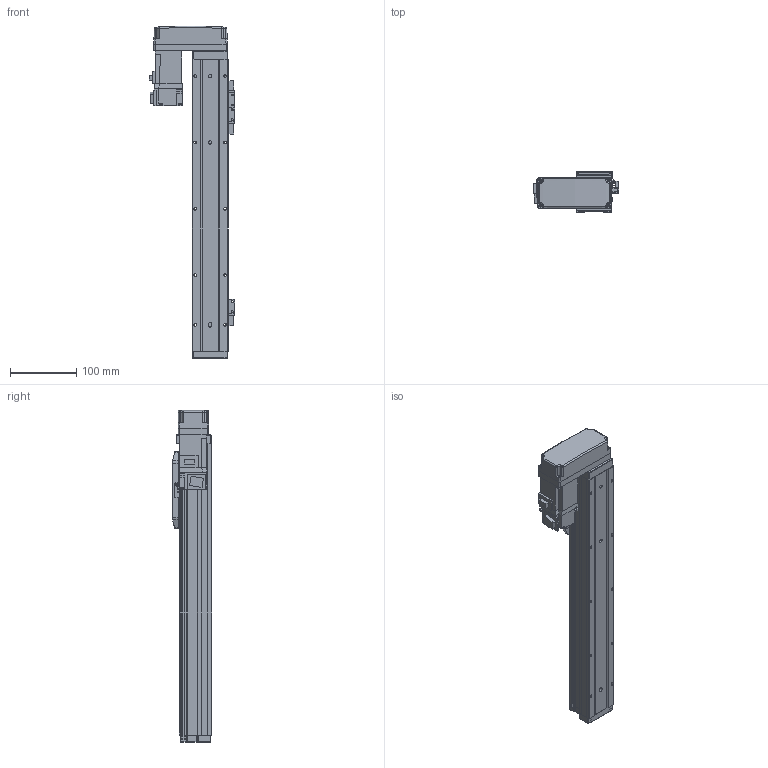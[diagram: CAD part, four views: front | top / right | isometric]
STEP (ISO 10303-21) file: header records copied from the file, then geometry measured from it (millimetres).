
FILE_DESCRIPTION (( 'STEP AP214' ), '1' );
FILE_NAME ('N_GRH5-300-BR-M10.step', '2025-03-14T10:57:56', ( '' ), ( '' ), 'SwSTEP 2.0', 'SolidWorks 2016', '' );
FILE_SCHEMA (( 'AUTOMOTIVE_DESIGN' ));
Length unit declared in the file: millimetre
Products named in the file (5): N_GRH5-BL-008^N_GRH5-300-BR-M10; N_GRH5-GY-011^N_GRH5-300-BR-M10; HF-KP13_100W_Motor^N_GRH5-300-BR-M10; N_GRH5-GY-004^N_GRH5-300-BR-M10; N_GRH5-300-BR-M10
Assembly tree (4 placements, depth 2):
  N_GRH5-300-BR-M10
    N_GRH5-GY-011^N_GRH5-300-BR-M10
    N_GRH5-GY-004^N_GRH5-300-BR-M10
    HF-KP13_100W_Motor^N_GRH5-300-BR-M10
    N_GRH5-BL-008^N_GRH5-300-BR-M10
Bounding box: 128.85 x 60 x 500.5 mm (x, y, z)
Volume: 1111873.2 mm3; surface area: 268580.4 mm2
Topology: 4 solids, 5 shells, 934 faces, 2384 edges, 1509 vertices
Faces by surface type: plane 547, cylinder 312, cone 50, bspline 15, sphere 10
Entity records: 35587 total; most frequent: CARTESIAN_POINT 5593, DIRECTION 4805, ORIENTED_EDGE 4704, EDGE_CURVE 2352, VECTOR 1635, LINE 1635, AXIS2_PLACEMENT_3D 1585, VERTEX_POINT 1507
